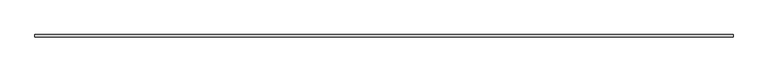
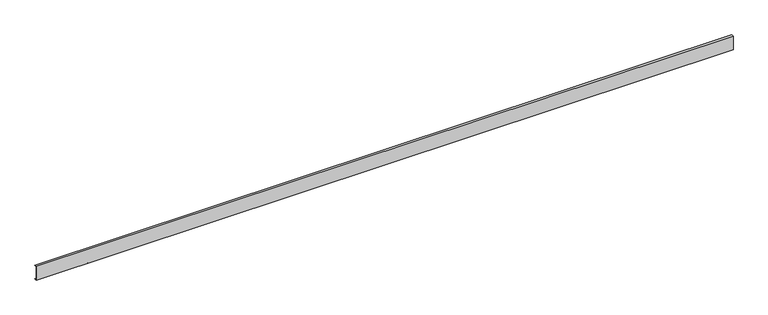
"""IFC4 building model written with IfcOpenShell, lengths in millimetres: beam geometry,  121557 :  121557."""

from ifc_helpers import new_model, si_unit, frame, origin, place, context, project, spatial, polyline, outline, extrude, source, transform, mapped, element, save


def beam_9d30ba23(model_context):
    return source(origin(), model_context, "Body", "SweptSolid", [
        extrude(outline(polyline([(-14116.5, 8290.0), (-14066.5, 8290.0), (-14066.5, 8285.0), (-14111.5, 8285.0), (-14111.5, 7975.0), (-14066.5, 7975.0), (-14066.5, 7970.0), (-14116.5, 7970.0), (-14116.5, 8290.0)])), frame((-180.0000001, 0.0, 0.0), z_axis=(1.0, 0.0, 0.0), x_axis=(0.0, 1.0, 0.0)), (0.0, 0.0, 1.0), 15570.0),
    ])


if __name__ == "__main__":
    model = new_model("IFC4")
    model_context = context("Model", 3, world=origin())
    ifc_project = project(units=[si_unit("LENGTHUNIT", "METRE", prefix="MILLI")], contexts=[model_context])
    site = spatial("IfcSite", under=ifc_project)
    building = spatial("IfcBuilding", under=site)
    placement = place(None, origin())
    beam_shape = beam_9d30ba23(model_context)
    element("IfcBeam", 1, ObjectType=" 121557 :  121557", at=placement, inside=building, context=model_context, shape_type="MappedRepresentation", body=[
        mapped(beam_shape, transform((0.0, 0.0, 0.0), x_axis=(1.0, 0.0, 0.0), y_axis=(0.0, 1.0, 0.0), z_axis=(0.0, 0.0, 1.0))),
    ])
    save(model, "model.ifc")
